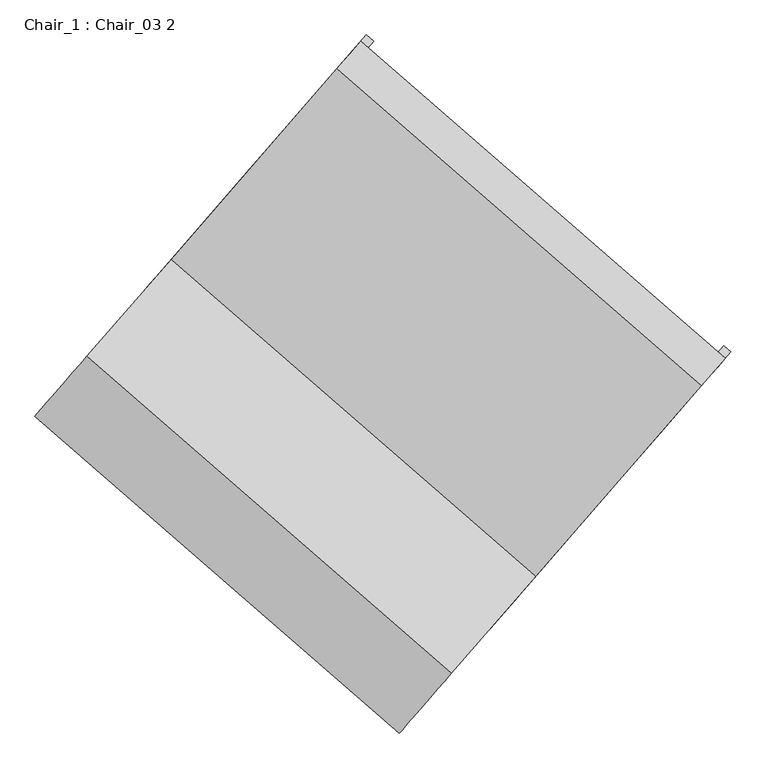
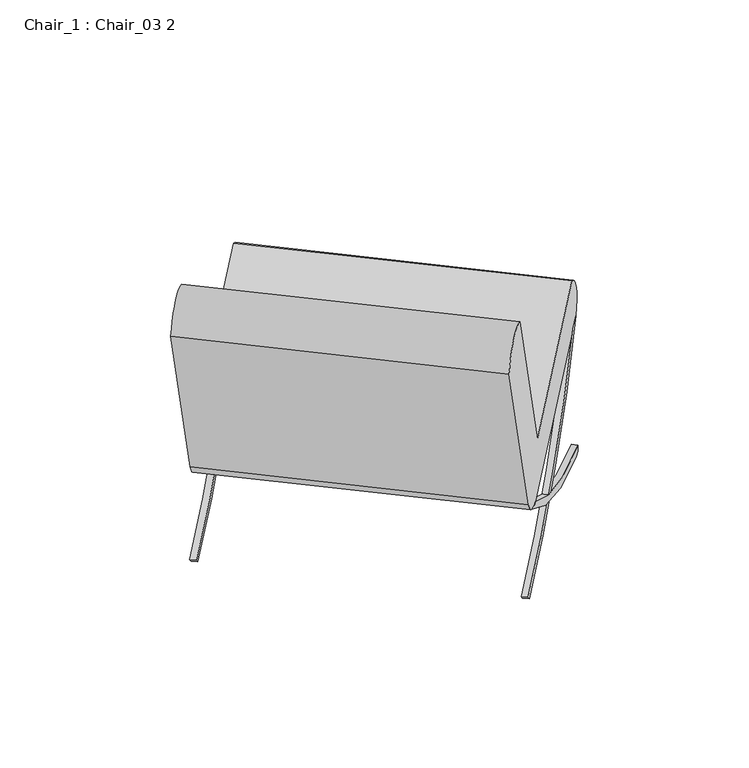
"""IFC4 building model written with IfcOpenShell, lengths in millimetres: furniture geometry, Chair_1 : Chair_03 2."""

from ifc_helpers import new_model, si_unit, point, frame, frame_2d, origin, place, context, project, spatial, polyline, circle_curve, trimmed, segment, composite_curve, outline, extrude, source, transform, mapped, element, save


def chair_1_chair_03_2_cc471011(model_context):
    return source(origin(), model_context, "Body", "SweptSolid", [
        extrude(outline(composite_curve([segment(polyline([(-1100.9710202, -1276.8791714), (-1100.9710202, -1251.8791714), (-1084.4010816, -1251.8791714)]), True, "CONTINUOUS"), segment(trimmed(circle_curve(frame_2d((20.0, -1113.0879371)), 1113.0879371), [point((-1084.4010816, -1251.8791714))], [point((-899.7036147, -1740.0727989))], True, "CARTESIAN"), True, "CONTINUOUS"), segment(trimmed(circle_curve(frame_2d((-825.0310018, -1747.0728616)), 75.0), [point((-899.7036147, -1740.0727989))], [point((-894.3219667, -1775.774119))], True, "CARTESIAN"), True, "CONTINUOUS"), segment(trimmed(circle_curve(frame_2d((0.0, -1113.0879371)), 1113.0879371), [point((-894.3219667, -1775.774119))], [point((-1100.9710202, -1276.8791714))], False, "CARTESIAN"), True, "CONTINUOUS")], self_intersect=False)), frame((1363.3413298, 994.8441028, 1111.696647), z_axis=(-0.7547095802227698, 0.6560590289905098, 0.0), x_axis=(0.0, 0.0, 1.0)), (0.0, 0.0, 1.0), 15.0462576),
        extrude(outline(composite_curve([segment(trimmed(circle_curve(frame_2d((-854.0698507, -472.5525556)), 993.6317335), [point((20.0, 0.0))], [point((123.246747, -651.8743049))], False, "CARTESIAN"), True, "CONTINUOUS"), segment(polyline([(123.246747, -651.8743049), (108.6853092, -619.1687803)]), True, "CONTINUOUS"), segment(trimmed(circle_curve(frame_2d((-874.0698507, -472.5525556)), 993.6317335), [point((108.6853092, -619.1687803))], [point((0.0, 0.0))], True, "CARTESIAN"), True, "CONTINUOUS"), segment(polyline([(0.0, 0.0), (20.0, 0.0)]), True, "CONTINUOUS")], self_intersect=False)), frame((167.9624765, -380.2819647, 14.1421356), z_axis=(-0.7547095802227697, 0.6560590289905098, 0.0), x_axis=(0.46390378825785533, 0.5336602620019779, -0.7071067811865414)), (0.0, 0.0, 1.0), 15.0462576),
        extrude(outline(composite_curve([segment(polyline([(-1100.9710202, -1276.8791714), (-1100.9710202, -1251.8791713), (-1084.4010816, -1251.8791713)]), True, "CONTINUOUS"), segment(trimmed(circle_curve(frame_2d((20.0, -1113.0879371)), 1113.0879371), [point((-1084.4010816, -1251.8791713))], [point((-899.7036147, -1740.0727987))], True, "CARTESIAN"), True, "CONTINUOUS"), segment(trimmed(circle_curve(frame_2d((-825.0310018, -1747.0728615)), 75.0), [point((-899.7036147, -1740.0727987))], [point((-894.3219667, -1775.7741188))], True, "CARTESIAN"), True, "CONTINUOUS"), segment(trimmed(circle_curve(frame_2d((0.0, -1113.0879371)), 1113.0879371), [point((-894.3219667, -1775.7741188))], [point((-1100.9710202, -1276.8791714))], False, "CARTESIAN"), True, "CONTINUOUS")], self_intersect=False)), frame((806.7774625, 1478.6576913, 1111.696647), z_axis=(-0.7547095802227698, 0.6560590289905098, 0.0), x_axis=(0.0, 0.0, 1.0)), (0.0, 0.0, 1.0), 15.0462576),
        extrude(outline(composite_curve([segment(trimmed(circle_curve(frame_2d((-854.0698508, -472.5525556)), 993.6317335), [point((19.9999999, 0.0))], [point((123.2467469, -651.8743048))], False, "CARTESIAN"), True, "CONTINUOUS"), segment(polyline([(123.2467469, -651.8743048), (108.6853092, -619.1687803)]), True, "CONTINUOUS"), segment(trimmed(circle_curve(frame_2d((-874.0698507, -472.5525556)), 993.6317335), [point((108.6853092, -619.1687803))], [point((0.0, 0.0))], True, "CARTESIAN"), True, "CONTINUOUS"), segment(polyline([(0.0, 0.0), (19.9999999, 0.0)]), True, "CONTINUOUS")], self_intersect=False)), frame((-388.6013907, 103.5316239, 14.1421356), z_axis=(-0.7547095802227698, 0.6560590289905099, 0.0), x_axis=(0.4639037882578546, 0.533660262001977, -0.7071067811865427)), (0.0, 0.0, 1.0), 15.0462576),
        extrude(outline(composite_curve([segment(trimmed(circle_curve(frame_2d((552.416255, -74.9999999)), 75.0), [point((552.416255, 0.0))], [point((627.3134702, -71.0748033))], False, "CARTESIAN"), True, "CONTINUOUS"), segment(polyline([(627.3134702, -71.0748033), (652.3287828, -548.3954034)]), True, "CONTINUOUS"), segment(trimmed(circle_curve(frame_2d((582.0633832, -487.8777341)), 92.7341074), [point((652.3287828, -548.3954034))], [point((518.5087238, -555.4086155))], False, "CARTESIAN"), True, "CONTINUOUS"), segment(polyline([(518.5087238, -555.4086155), (496.4576105, -134.6483087), (4.0673664, -134.6483087)]), True, "CONTINUOUS"), segment(trimmed(circle_curve(frame_2d((59.4330589, -67.3241543)), 87.1659433), [point((4.0673664, -134.6483087))], [point((4.0673664, 0.0))], False, "CARTESIAN"), True, "CONTINUOUS"), segment(polyline([(4.0673664, 0.0), (552.416255, 0.0)]), True, "CONTINUOUS")], self_intersect=False)), frame((24.7993765, -544.972272, 760.8177575), z_axis=(-0.7547095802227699, 0.6560590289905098, 0.0), x_axis=(0.2668432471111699, 0.3069680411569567, -0.9135454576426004)), (0.0, 0.0, 1.0), 752.5006133),
    ])


if __name__ == "__main__":
    model = new_model("IFC4")
    model_context = context("Model", 3, world=origin())
    ifc_project = project(units=[si_unit("LENGTHUNIT", "METRE", prefix="MILLI")], contexts=[model_context])
    site = spatial("IfcSite", under=ifc_project)
    building = spatial("IfcBuilding", under=site)
    placement = place(None, origin())
    chair_1_chair_03_2_shape = chair_1_chair_03_2_cc471011(model_context)
    element("IfcFurniture", 1, ObjectType="Chair_1 : Chair_03 2", at=placement, inside=building, context=model_context, shape_type="MappedRepresentation", body=[
        mapped(chair_1_chair_03_2_shape, transform((0.0, 0.0, 0.0), x_axis=(1.0, 0.0, 0.0), y_axis=(0.0, 1.0, 0.0), z_axis=(0.0, 0.0, 1.0))),
    ])
    save(model, "model.ifc")
